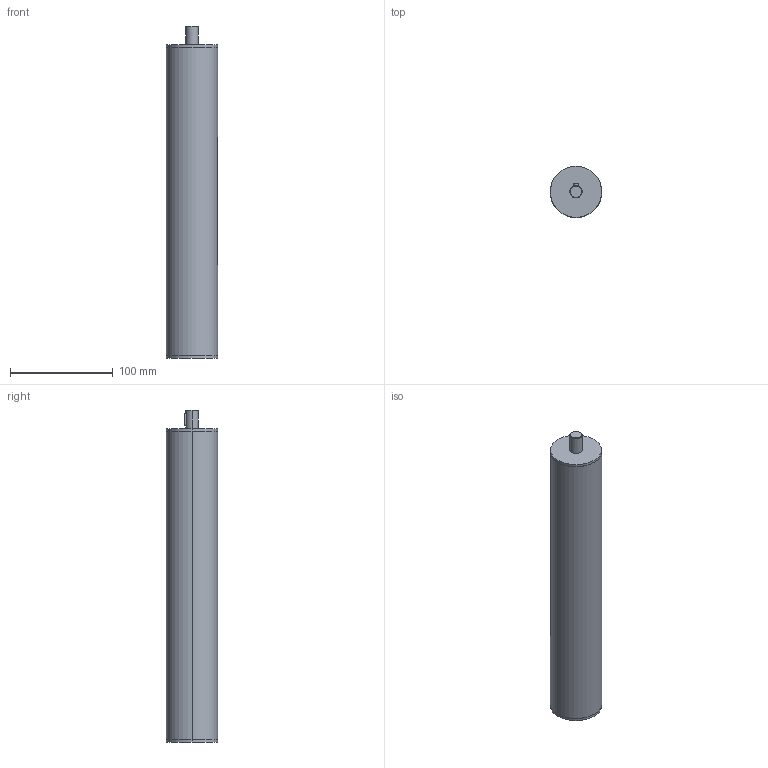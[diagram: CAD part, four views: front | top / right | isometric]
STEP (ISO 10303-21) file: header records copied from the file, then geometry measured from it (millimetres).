
FILE_DESCRIPTION (( 'STEP AP214' ), '1' );
FILE_NAME ('291-50-65-R1-SCR.step', '2023-08-30T05:21:54', ( '' ), ( '' ), 'SwSTEP 2.0', 'SolidWorks 2022', '' );
FILE_SCHEMA (( 'AUTOMOTIVE_DESIGN' ));
Length unit declared in the file: millimetre
Products named in the file (3): WB2910 Rund^WBVES_50-65-1; WB2910 mutter^WBVES_Tr20-M6; 291-50-65-R1-SCR
Assembly tree (2 placements, depth 2):
  291-50-65-R1-SCR
    WB2910 mutter^WBVES_Tr20-M6
    WB2910 Rund^WBVES_50-65-1
Bounding box: 50 x 50 x 323 mm (x, y, z)
Volume: 260533.7 mm3; surface area: 129935.5 mm2
Topology: 2 solids, 2 shells, 48 faces, 112 edges, 70 vertices
Faces by surface type: cylinder 25, plane 17, cone 6
Entity records: 1847 total; most frequent: CARTESIAN_POINT 426, DIRECTION 246, ORIENTED_EDGE 216, EDGE_CURVE 108, AXIS2_PLACEMENT_3D 96, VERTEX_POINT 70, EDGE_LOOP 58, LINE 54
